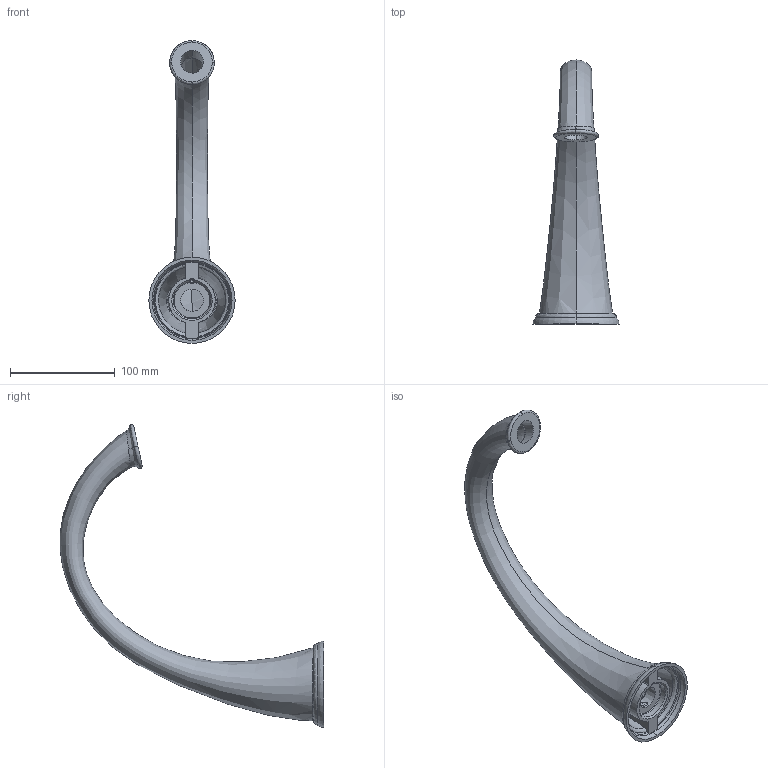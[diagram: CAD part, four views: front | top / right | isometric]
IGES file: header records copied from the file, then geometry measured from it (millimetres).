
Start section:  PTC IGES file: sku_t9211_solid.igs
Global section: file name: sku_t9211_solid.igs; native system: Pro/ENGINEER by Parametric Technology Corporation; preprocessor: 2007460; author: kevans; organization: Unknown; date: 20090127.164852; units: inch
Bounding box: 82.55 x 252.53 x 289.7 mm (x, y, z)
Volume: 182405.6 mm3; surface area: 110391 mm2
Topology: 1 solids, 1 shells, 151 faces, 369 edges, 216 vertices
Faces by surface type: revolution 79, bspline 72
